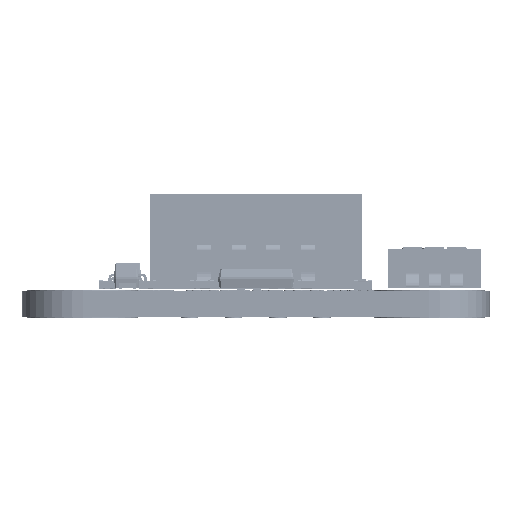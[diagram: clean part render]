
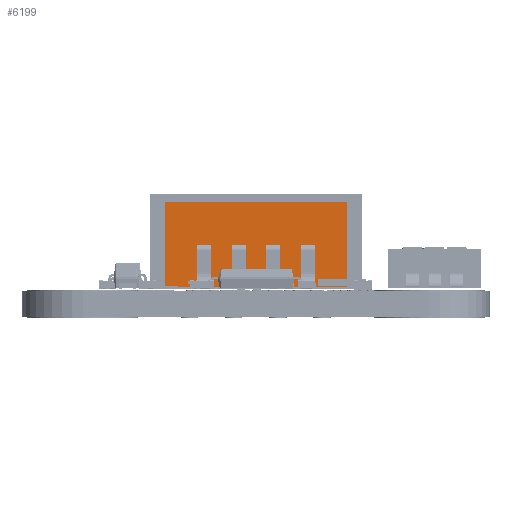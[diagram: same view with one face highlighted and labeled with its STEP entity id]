
A CAD part, left-side view. The second image highlights one B-rep face of the part: STEP entity #6199.
In plain terms, the highlighted planar face has unit normal (-1, 0, 0).
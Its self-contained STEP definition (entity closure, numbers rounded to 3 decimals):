
#6199=ADVANCED_FACE('',(#13748),#124746,.T.);
#13748=FACE_OUTER_BOUND('',#21798,.T.);
#21798=EDGE_LOOP('',(#45035,#45036,#45037,#45038));
#45035=ORIENTED_EDGE('',*,*,#73658,.F.);
#45036=ORIENTED_EDGE('',*,*,#73660,.T.);
#45037=ORIENTED_EDGE('',*,*,#73661,.T.);
#45038=ORIENTED_EDGE('',*,*,#73662,.T.);
#73658=EDGE_CURVE('',#113529,#113530,#98594,.T.);
#73660=EDGE_CURVE('',#113529,#113531,#98596,.T.);
#73661=EDGE_CURVE('',#113531,#113532,#98597,.T.);
#73662=EDGE_CURVE('',#113532,#113530,#98598,.T.);
#98594=B_SPLINE_CURVE_WITH_KNOTS('',1,(#187755,#187756),.UNSPECIFIED.,.F.,
 .F.,(2,2),(0.,4.9),.UNSPECIFIED.);
#98596=B_SPLINE_CURVE_WITH_KNOTS('',1,(#187759,#187760),.UNSPECIFIED.,.F.,
 .F.,(2,2),(0.,10.465),.UNSPECIFIED.);
#98597=B_SPLINE_CURVE_WITH_KNOTS('',1,(#187761,#187762),.UNSPECIFIED.,.F.,
 .F.,(2,2),(0.,4.9),.UNSPECIFIED.);
#98598=B_SPLINE_CURVE_WITH_KNOTS('',1,(#187763,#187764),.UNSPECIFIED.,.F.,
 .F.,(2,2),(0.,10.465),.UNSPECIFIED.);
#113529=VERTEX_POINT('',#187745);
#113530=VERTEX_POINT('',#187746);
#113531=VERTEX_POINT('',#187747);
#113532=VERTEX_POINT('',#187748);
#124746=PLANE('',#134688);
#134688=AXIS2_PLACEMENT_3D('',#187738,#149230,$);
#149230=DIRECTION('',(-1.,0.,0.));
#187738=CARTESIAN_POINT('',(10.615,-6.279,7.111));
#187745=CARTESIAN_POINT('',(10.615,-5.232,6.621));
#187746=CARTESIAN_POINT('',(10.615,-5.232,1.721));
#187747=CARTESIAN_POINT('',(10.615,5.232,6.621));
#187748=CARTESIAN_POINT('',(10.615,5.232,1.721));
#187755=CARTESIAN_POINT('',(10.615,-5.232,6.621));
#187756=CARTESIAN_POINT('',(10.615,-5.232,1.721));
#187759=CARTESIAN_POINT('',(10.615,-5.232,6.621));
#187760=CARTESIAN_POINT('',(10.615,5.232,6.621));
#187761=CARTESIAN_POINT('',(10.615,5.232,6.621));
#187762=CARTESIAN_POINT('',(10.615,5.232,1.721));
#187763=CARTESIAN_POINT('',(10.615,5.232,1.721));
#187764=CARTESIAN_POINT('',(10.615,-5.232,1.721));
